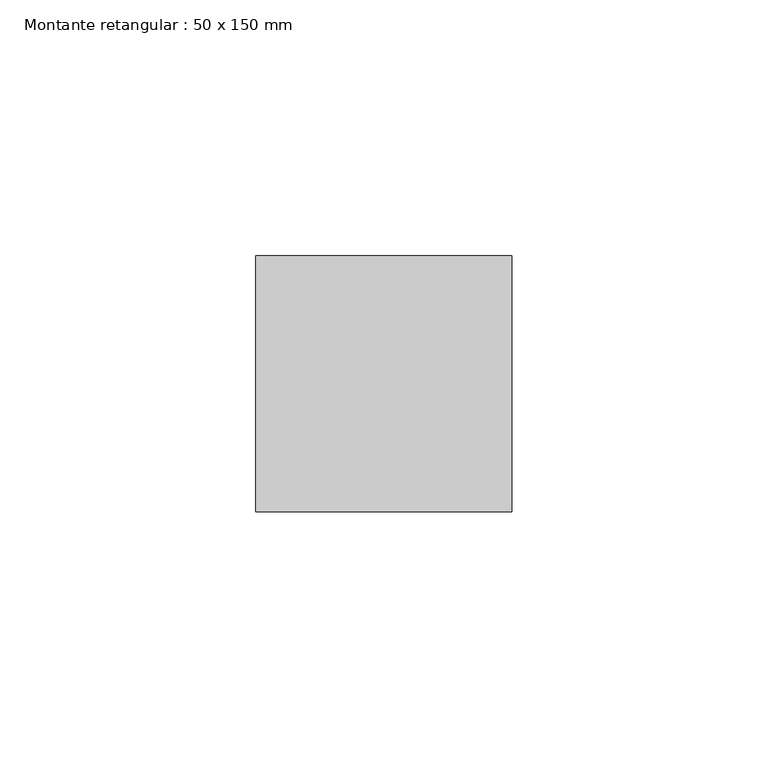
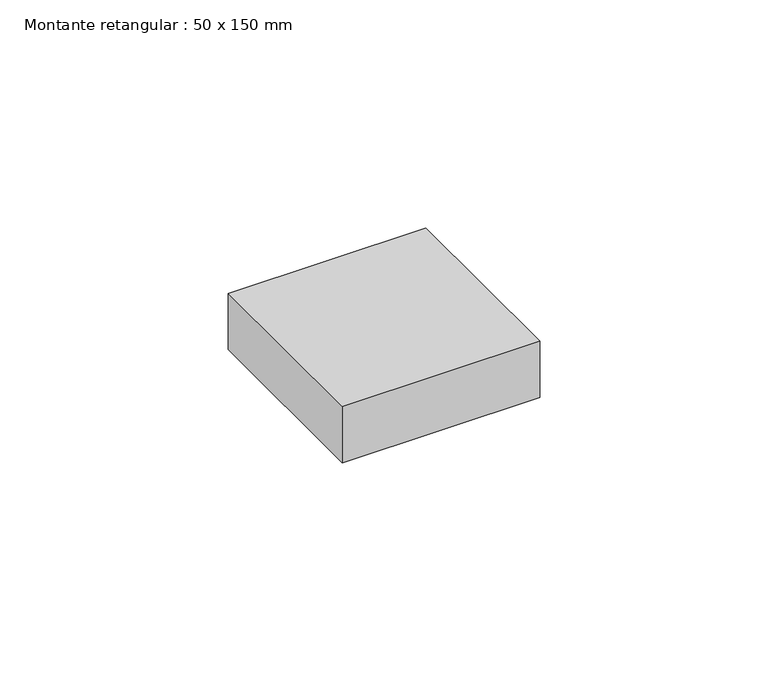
"""IFC4 building model written with IfcOpenShell, lengths in millimetres: member geometry, Montante retangular : 50 x 150 mm."""

import ifcopenshell
import ifcopenshell.guid

model = None  # the IFC model being written
_history = None  # IfcOwnerHistory: only IFC2X3 demands one
_inside = {}  # id of a spatial element -> (the spatial element, [elements in it])
_under = {}  # id of a project, library or spatial element -> (it, [spatial elements below it])
_declared = {}  # id of a project -> (the project, [libraries it declares])
_typed = {}  # id of a type object -> (the type object, [elements of that type])
_made_of = {}  # id of a material, layer set ... -> (it, [elements and type objects made of it])


def new_model(schema):
    """Start an empty IFC model of exactly this schema.

    Asked for "IFC4X3", IfcOpenShell would pick the latest addendum, in which some entities
    have other attributes; the version numbers below select the first issue.
    IFC2X3 requires an IfcOwnerHistory on every rooted entity: one is made here for all.
    """
    global model, _history
    if schema == "IFC4X3":
        model = ifcopenshell.file(schema_version=(4, 3, 0, 0))
    else:
        model = ifcopenshell.file(schema=schema)
    _inside.clear()
    _under.clear()
    _declared.clear()
    _typed.clear()
    _made_of.clear()
    _history = None
    if model.schema == "IFC2X3":
        org = make("IfcOrganization", Name="unknown")
        user = make(
            "IfcPersonAndOrganization",
            ThePerson=make("IfcPerson", FamilyName="unknown"),
            TheOrganization=org,
        )
        app = make(
            "IfcApplication",
            ApplicationDeveloper=org,
            Version="unknown",
            ApplicationFullName="unknown",
            ApplicationIdentifier="unknown",
        )
        _history = make(
            "IfcOwnerHistory",
            OwningUser=user,
            OwningApplication=app,
            ChangeAction="ADDED",
            CreationDate=0,
        )
    return model


def make(cls, **values):
    """One entity of the class cls with the attributes given. An attribute that is None is left unset."""
    return model.create_entity(
        cls, **{name: value for name, value in values.items() if value is not None}
    )


def rooted(cls, **values):
    """An entity with a GlobalId (a new one), such as an element, a storey or a relation."""
    return make(cls, GlobalId=ifcopenshell.guid.new(), OwnerHistory=_history, **values)


def si_unit(unit_type, name, prefix=None):
    """IfcSIUnit, for example si_unit("LENGTHUNIT", "METRE", prefix="MILLI")."""
    return make("IfcSIUnit", UnitType=unit_type, Prefix=prefix, Name=name)


def assignment(units):
    """IfcUnitAssignment: the units of a project."""
    return None if units is None else make("IfcUnitAssignment", Units=units)


def point(xyz):
    """IfcCartesianPoint."""
    return None if xyz is None else make("IfcCartesianPoint", Coordinates=xyz)


def direction(xyz):
    """IfcDirection."""
    return None if xyz is None else make("IfcDirection", DirectionRatios=xyz)


def frame(location, z_axis=None, x_axis=None):
    """IfcAxis2Placement3D, a coordinate frame: its origin and axes. An axis left out is left unset."""
    return make(
        "IfcAxis2Placement3D",
        Location=point(location),
        Axis=direction(z_axis),
        RefDirection=direction(x_axis),
    )


def origin():
    """The frame at (0, 0, 0) with its axes left unset."""
    return frame((0.0, 0.0, 0.0))


def place(relative_to, where):
    """IfcLocalPlacement: puts the frame where relative to a parent placement (None: the world)."""
    return make(
        "IfcLocalPlacement", PlacementRelTo=relative_to, RelativePlacement=where
    )


def context(
    kind, dimensions, precision=None, world=None, true_north=None, identifier=None
):
    """IfcGeometricRepresentationContext, for example the 3D "Model" context."""
    return make(
        "IfcGeometricRepresentationContext",
        ContextIdentifier=identifier,
        ContextType=kind,
        CoordinateSpaceDimension=dimensions,
        Precision=precision,
        WorldCoordinateSystem=world,
        TrueNorth=true_north,
    )


def project(units=None, contexts=None):
    """IfcProject with its units and contexts."""
    return rooted(
        "IfcProject",
        Name="project",
        RepresentationContexts=contexts,
        UnitsInContext=assignment(units),
    )


def spatial(cls, under=None, at=None, **own):
    """A site, building, storey or space (cls), placed at a placement, below another one or the project."""
    s = rooted(cls, ObjectPlacement=at, **own)
    if under is not None:
        _under.setdefault(under.id(), (under, []))[1].append(s)
    return s


def polyline(points):
    """IfcPolyline through the points."""
    return make("IfcPolyline", Points=[point(p) for p in points])


def outline(outer, holes=None, kind="AREA"):
    """IfcArbitraryClosedProfileDef: a profile drawn as a closed curve; with holes, ...WithVoids."""
    if holes is None:
        return make("IfcArbitraryClosedProfileDef", ProfileType=kind, OuterCurve=outer)
    return make(
        "IfcArbitraryProfileDefWithVoids",
        ProfileType=kind,
        OuterCurve=outer,
        InnerCurves=holes,
    )


def extrude(swept, where, along, depth):
    """IfcExtrudedAreaSolid: the profile swept, set in the frame where, extruded along a direction by depth."""
    return make(
        "IfcExtrudedAreaSolid",
        SweptArea=swept,
        Position=where,
        ExtrudedDirection=direction(along),
        Depth=depth,
    )


def shape(context_of_items, identifier, shape_type, items):
    """IfcShapeRepresentation: the items that make up one representation, for example the "Body"."""
    return make(
        "IfcShapeRepresentation",
        ContextOfItems=context_of_items,
        RepresentationIdentifier=identifier,
        RepresentationType=shape_type,
        Items=items,
    )


def source(mapping_origin, context_of_items, identifier, shape_type, items):
    """IfcRepresentationMap: a shape defined once, which mapped items show again and again."""
    return make(
        "IfcRepresentationMap",
        MappingOrigin=mapping_origin,
        MappedRepresentation=shape(context_of_items, identifier, shape_type, items),
    )


def transform(
    local_origin,
    x_axis=None,
    y_axis=None,
    z_axis=None,
    scale=None,
    scale2=None,
    scale3=None,
    uniform=True,
):
    """IfcCartesianTransformationOperator3D, or its non-uniform kind. x_axis, y_axis, z_axis: its Axis1, 2, 3."""
    if uniform:
        return make(
            "IfcCartesianTransformationOperator3D",
            Axis1=direction(x_axis),
            Axis2=direction(y_axis),
            LocalOrigin=point(local_origin),
            Scale=scale,
            Axis3=direction(z_axis),
        )
    return make(
        "IfcCartesianTransformationOperator3DnonUniform",
        Axis1=direction(x_axis),
        Axis2=direction(y_axis),
        LocalOrigin=point(local_origin),
        Scale=scale,
        Axis3=direction(z_axis),
        Scale2=scale2,
        Scale3=scale3,
    )


def mapped(mapping_source, mapping_target):
    """IfcMappedItem: shows the shape of a source again, moved by a transform."""
    return make(
        "IfcMappedItem", MappingSource=mapping_source, MappingTarget=mapping_target
    )


def made_of(thing, what):
    """Note that an element or type object is made of a material, layer set ...; save() writes the relation."""
    if what is not None:
        _made_of.setdefault(what.id(), (what, []))[1].append(thing)
    return thing


def element(
    cls,
    number,
    at=None,
    inside=None,
    cuts=None,
    type_object=None,
    material=None,
    context=None,
    identifier="Body",
    shape_type=None,
    held_by="IfcProductDefinitionShape",
    body=None,
    shapes=None,
    **own,
):
    """One element of the class cls, such as IfcWall. Its Tag is "e" and its number.

    at: its placement. inside: the storey or other place that contains it. cuts: it is an
    opening in that element (IfcRelVoidsElement). A single representation is given by context,
    identifier, shape_type and body (its items); several are given by shapes. held_by: the class
    of the entity that holds the representations. save() writes the other relations.
    """
    e = rooted(cls, Tag="e%d" % number, ObjectPlacement=at, **own)
    if body is not None:
        shapes = [shape(context, identifier, shape_type, body)]
    if shapes is not None:
        e.Representation = make(held_by, Representations=shapes)
    if inside is not None:
        _inside.setdefault(inside.id(), (inside, []))[1].append(e)
    if cuts is not None:
        rooted(
            "IfcRelVoidsElement", RelatingBuildingElement=cuts, RelatedOpeningElement=e
        )
    if type_object is not None:
        _typed.setdefault(type_object.id(), (type_object, []))[1].append(e)
    return made_of(e, material)


def aggregate(whole, parts):
    """IfcRelAggregates: a whole, such as a stair, and the parts it consists of."""
    return rooted("IfcRelAggregates", RelatingObject=whole, RelatedObjects=parts)


def save(model, path):
    """Write the relations noted so far, then the file.

    IfcRelAggregates (storeys below a building ...), IfcRelContainedInSpatialStructure (elements
    in a storey), IfcRelDefinesByType, IfcRelAssociatesMaterial and IfcRelDeclares: one each for
    every whole, place, type object, material and project.
    """
    for whole, parts in _under.values():
        aggregate(whole, parts)
    for where, things in _inside.values():
        rooted(
            "IfcRelContainedInSpatialStructure",
            RelatedElements=things,
            RelatingStructure=where,
        )
    for kind, things in _typed.values():
        rooted("IfcRelDefinesByType", RelatedObjects=things, RelatingType=kind)
    for what, things in _made_of.values():
        rooted("IfcRelAssociatesMaterial", RelatedObjects=things, RelatingMaterial=what)
    for by, libraries in _declared.values():
        rooted("IfcRelDeclares", RelatingContext=by, RelatedDefinitions=libraries)
    model.write(path)


def montante_retangular_50_x_150_mm_900ca511(model_context):
    return source(origin(), model_context, "Body", "SweptSolid", [
        extrude(outline(polyline([(25.0, 25.0), (25.0, -25.0), (-25.0, -25.0), (-25.0, 25.0), (25.0, 25.0)])), frame((0.0, 0.0, -15.0), z_axis=(0.0, 0.0, 1.0), x_axis=(1.0, 0.0, 0.0)), (0.0, 0.0, 1.0), 15.0),
    ])


if __name__ == "__main__":
    model = new_model("IFC4")
    model_context = context("Model", 3, world=origin())
    ifc_project = project(units=[si_unit("LENGTHUNIT", "METRE", prefix="MILLI")], contexts=[model_context])
    site = spatial("IfcSite", under=ifc_project)
    building = spatial("IfcBuilding", under=site)
    placement = place(None, origin())
    montante_retangular_50_x_150_mm_shape = montante_retangular_50_x_150_mm_900ca511(model_context)
    element("IfcMember", 1, ObjectType="Montante retangular : 50 x 150 mm", at=placement, inside=building, context=model_context, shape_type="MappedRepresentation", body=[
        mapped(montante_retangular_50_x_150_mm_shape, transform((0.0, 0.0, 0.0), x_axis=(1.0, 0.0, 0.0), y_axis=(0.0, 1.0, 0.0), z_axis=(0.0, 0.0, 1.0))),
    ])
    save(model, "model.ifc")
